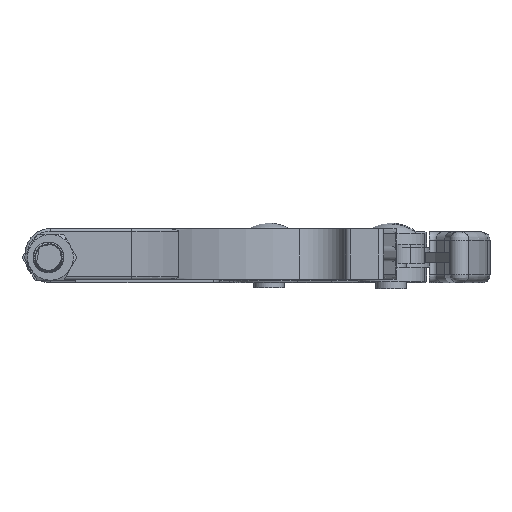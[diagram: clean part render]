
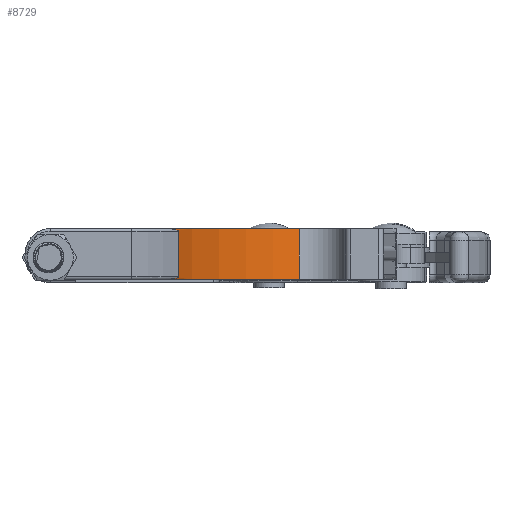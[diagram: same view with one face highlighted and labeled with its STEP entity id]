
A CAD part, front view. The second image highlights one B-rep face of the part: STEP entity #8729.
In plain terms, the highlighted cylindrical face has radius 50.8 mm (diameter 101.6 mm), a partial arc.
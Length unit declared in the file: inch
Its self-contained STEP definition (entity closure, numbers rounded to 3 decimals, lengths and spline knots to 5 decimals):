
#755=B_SPLINE_CURVE_WITH_KNOTS('',3,(#14354,#14355,#14356,#14357,#14358,
#14359,#14360,#14361,#14362,#14363,#14364,#14365,#14366,#14367),
 .UNSPECIFIED.,.F.,.F.,(4,2,2,2,2,2,4),(0.61517,0.62184,
0.63078,0.64667,0.68552,0.80412,
1.05045),.UNSPECIFIED.);
#756=B_SPLINE_CURVE_WITH_KNOTS('',3,(#14380,#14381,#14382,#14383,#14384,
#14385,#14386,#14387,#14388,#14389,#14390,#14391,#14392,#14393),
 .UNSPECIFIED.,.F.,.F.,(4,2,2,2,2,2,4),(0.24453,0.50066,
0.55973,0.59305,0.60615,0.61451,
0.61517),.UNSPECIFIED.);
#950=FACE_OUTER_BOUND('',#1557,.T.);
#1557=EDGE_LOOP('',(#6584,#6585,#6586,#6587,#6588,#6589));
#2256=CIRCLE('',#9353,2.);
#2347=CIRCLE('',#9517,2.);
#2954=LINE('',#14719,#3444);
#2984=LINE('',#14807,#3474);
#3444=VECTOR('',#11131,0.565);
#3474=VECTOR('',#11239,0.625);
#3922=VERTEX_POINT('',#14252);
#3923=VERTEX_POINT('',#14254);
#3956=VERTEX_POINT('',#14353);
#3959=VERTEX_POINT('',#14376);
#3960=VERTEX_POINT('',#14378);
#4029=VERTEX_POINT('',#14805);
#4829=EDGE_CURVE('',#3923,#3922,#2256,.T.);
#4872=EDGE_CURVE('',#3923,#3956,#755,.F.);
#4879=EDGE_CURVE('',#3960,#3959,#756,.F.);
#4964=EDGE_CURVE('',#3956,#3960,#2954,.T.);
#5008=EDGE_CURVE('',#3922,#4029,#2984,.T.);
#5009=EDGE_CURVE('',#4029,#3959,#2347,.T.);
#6584=ORIENTED_EDGE('',*,*,#5009,.T.);
#6585=ORIENTED_EDGE('',*,*,#4879,.F.);
#6586=ORIENTED_EDGE('',*,*,#4964,.F.);
#6587=ORIENTED_EDGE('',*,*,#4872,.F.);
#6588=ORIENTED_EDGE('',*,*,#4829,.T.);
#6589=ORIENTED_EDGE('',*,*,#5008,.T.);
#8463=CYLINDRICAL_SURFACE('',#9516,2.);
#8729=ADVANCED_FACE('',(#950),#8463,.T.);
#9353=AXIS2_PLACEMENT_3D('',#14255,#10841,#10842);
#9516=AXIS2_PLACEMENT_3D('',#14808,#11240,#11241);
#9517=AXIS2_PLACEMENT_3D('',#14809,#11242,#11243);
#10841=DIRECTION('center_axis',(0.,0.,1.));
#10842=DIRECTION('ref_axis',(1.,0.,0.));
#11131=DIRECTION('',(0.,0.,1.));
#11239=DIRECTION('',(0.,0.,1.));
#11240=DIRECTION('center_axis',(0.,0.,-1.));
#11241=DIRECTION('ref_axis',(1.,0.,0.));
#11242=DIRECTION('center_axis',(0.,0.,-1.));
#11243=DIRECTION('ref_axis',(1.,0.,0.));
#14252=CARTESIAN_POINT('',(13.87478,10.81514,6.62199));
#14254=CARTESIAN_POINT('',(12.24232,10.85951,6.62199));
#14255=CARTESIAN_POINT('Origin',(13.10816,12.66238,6.62199));
#14353=CARTESIAN_POINT('',(12.39237,10.79486,6.65199));
#14354=CARTESIAN_POINT('Ctrl Pts',(12.39237,10.79486,6.65199));
#14355=CARTESIAN_POINT('Ctrl Pts',(12.39237,10.79486,6.6516));
#14356=CARTESIAN_POINT('Ctrl Pts',(12.39231,10.79488,6.65122));
#14357=CARTESIAN_POINT('Ctrl Pts',(12.39202,10.79499,6.65033));
#14358=CARTESIAN_POINT('Ctrl Pts',(12.39175,10.7951,6.64985));
#14359=CARTESIAN_POINT('Ctrl Pts',(12.39085,10.79544,6.64864));
#14360=CARTESIAN_POINT('Ctrl Pts',(12.39007,10.79574,6.64794));
#14361=CARTESIAN_POINT('Ctrl Pts',(12.3874,10.79677,6.6459));
#14362=CARTESIAN_POINT('Ctrl Pts',(12.3848,10.79778,6.64458));
#14363=CARTESIAN_POINT('Ctrl Pts',(12.37406,10.80196,6.63999));
#14364=CARTESIAN_POINT('Ctrl Pts',(12.36169,10.80685,6.63664));
#14365=CARTESIAN_POINT('Ctrl Pts',(12.32012,10.82393,6.62771));
#14366=CARTESIAN_POINT('Ctrl Pts',(12.27996,10.84144,6.62199));
#14367=CARTESIAN_POINT('Ctrl Pts',(12.24232,10.85951,6.62199));
#14376=CARTESIAN_POINT('',(12.24232,10.85951,7.24699));
#14378=CARTESIAN_POINT('',(12.39237,10.79486,7.21699));
#14380=CARTESIAN_POINT('Ctrl Pts',(12.24232,10.85951,7.24699));
#14381=CARTESIAN_POINT('Ctrl Pts',(12.28708,10.83802,7.24699));
#14382=CARTESIAN_POINT('Ctrl Pts',(12.33712,10.81673,7.23879));
#14383=CARTESIAN_POINT('Ctrl Pts',(12.37169,10.8029,7.22938));
#14384=CARTESIAN_POINT('Ctrl Pts',(12.37912,10.79998,7.22708));
#14385=CARTESIAN_POINT('Ctrl Pts',(12.38771,10.79665,7.22289));
#14386=CARTESIAN_POINT('Ctrl Pts',(12.38968,10.79589,7.22151));
#14387=CARTESIAN_POINT('Ctrl Pts',(12.39133,10.79526,7.21973));
#14388=CARTESIAN_POINT('Ctrl Pts',(12.39177,10.79509,7.21914));
#14389=CARTESIAN_POINT('Ctrl Pts',(12.39224,10.79491,7.21804));
#14390=CARTESIAN_POINT('Ctrl Pts',(12.39235,10.79486,7.21759));
#14391=CARTESIAN_POINT('Ctrl Pts',(12.39237,10.79486,7.21706));
#14392=CARTESIAN_POINT('Ctrl Pts',(12.39237,10.79486,7.21703));
#14393=CARTESIAN_POINT('Ctrl Pts',(12.39237,10.79486,7.21699));
#14719=CARTESIAN_POINT('',(12.39237,10.79486,6.93449));
#14805=CARTESIAN_POINT('',(13.87478,10.81514,7.24699));
#14807=CARTESIAN_POINT('',(13.87478,10.81514,6.93449));
#14808=CARTESIAN_POINT('Origin',(13.10816,12.66238,6.93449));
#14809=CARTESIAN_POINT('Origin',(13.10816,12.66238,7.24699));
